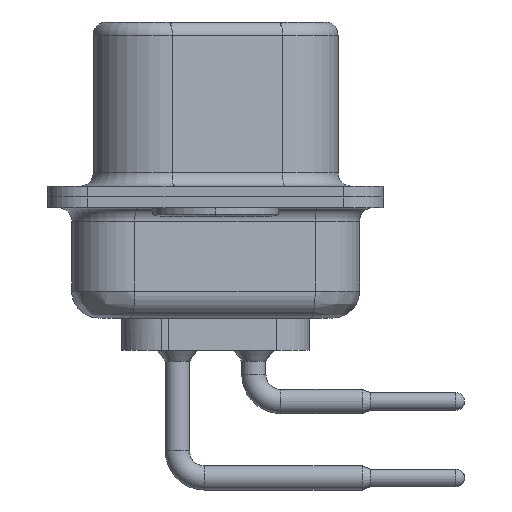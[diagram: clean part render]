
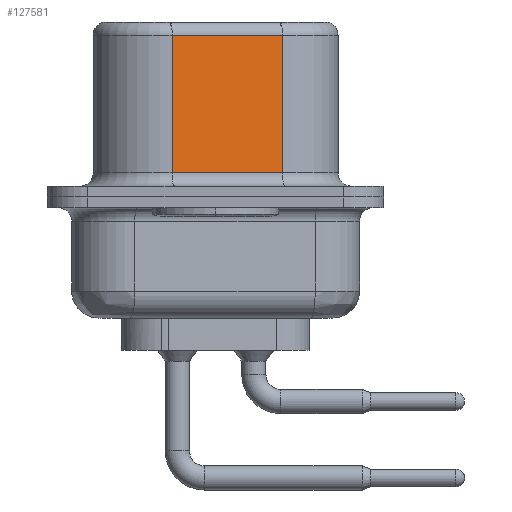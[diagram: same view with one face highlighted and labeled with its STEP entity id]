
A CAD part, left-side view. The second image highlights one B-rep face of the part: STEP entity #127581.
In plain terms, the highlighted planar face has unit normal (-0.985, -0.174, 0).
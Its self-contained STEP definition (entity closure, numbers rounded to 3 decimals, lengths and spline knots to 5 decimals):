
#5504 = CARTESIAN_POINT ( 'NONE',  ( -1.1048, 0.06362, 0.33504 ) ) ;
#12845 = VERTEX_POINT ( 'NONE', #84486 ) ;
#17356 = DIRECTION ( 'NONE',  ( -0.174, 0.985, 0. ) ) ;
#19855 = VERTEX_POINT ( 'NONE', #105521 ) ;
#21568 = CARTESIAN_POINT ( 'NONE',  ( -1.1048, 0.06362, 0.13386 ) ) ;
#24396 = VERTEX_POINT ( 'NONE', #98875 ) ;
#24650 = EDGE_CURVE ( 'NONE', #24396, #12845, #87204, .T. ) ;
#30681 = AXIS2_PLACEMENT_3D ( 'NONE', #138311, #70417, #17356 ) ;
#40199 = ORIENTED_EDGE ( 'NONE', *, *, #48391, .F. ) ;
#48391 = EDGE_CURVE ( 'NONE', #64205, #19855, #51664, .T. ) ;
#50054 = LINE ( 'NONE', #5504, #100008 ) ;
#50293 = DIRECTION ( 'NONE',  ( 0., 0., 1. ) ) ;
#51664 = LINE ( 'NONE', #125276, #86000 ) ;
#64205 = VERTEX_POINT ( 'NONE', #104562 ) ;
#70417 = DIRECTION ( 'NONE',  ( -0.985, -0.174, 0. ) ) ;
#71801 = FACE_OUTER_BOUND ( 'NONE', #133827, .T. ) ;
#82122 = ORIENTED_EDGE ( 'NONE', *, *, #24650, .T. ) ;
#84486 = CARTESIAN_POINT ( 'NONE',  ( -1.07634, -0.0978, 0.33504 ) ) ;
#86000 = VECTOR ( 'NONE', #50293, 39.37008 ) ;
#87204 = LINE ( 'NONE', #98528, #109723 ) ;
#93222 = DIRECTION ( 'NONE',  ( 0.174, -0.985, 0. ) ) ;
#95872 = DIRECTION ( 'NONE',  ( 0.174, -0.985, 0. ) ) ;
#98528 = CARTESIAN_POINT ( 'NONE',  ( -1.07634, -0.0978, 0.13386 ) ) ;
#98875 = CARTESIAN_POINT ( 'NONE',  ( -1.07634, -0.0978, 0.13386 ) ) ;
#100008 = VECTOR ( 'NONE', #93222, 39.37008 ) ;
#104562 = CARTESIAN_POINT ( 'NONE',  ( -1.1048, 0.06362, 0.13386 ) ) ;
#105521 = CARTESIAN_POINT ( 'NONE',  ( -1.1048, 0.06362, 0.33504 ) ) ;
#109146 = DIRECTION ( 'NONE',  ( 0., 0., 1. ) ) ;
#109249 = LINE ( 'NONE', #21568, #109429 ) ;
#109429 = VECTOR ( 'NONE', #95872, 39.37008 ) ;
#109723 = VECTOR ( 'NONE', #109146, 39.37008 ) ;
#114006 = EDGE_CURVE ( 'NONE', #64205, #24396, #109249, .T. ) ;
#114966 = PLANE ( 'NONE',  #30681 ) ;
#117662 = ORIENTED_EDGE ( 'NONE', *, *, #139381, .F. ) ;
#125276 = CARTESIAN_POINT ( 'NONE',  ( -1.1048, 0.06362, 0.13386 ) ) ;
#127581 = ADVANCED_FACE ( 'NONE', ( #71801 ), #114966, .T. ) ;
#133827 = EDGE_LOOP ( 'NONE', ( #40199, #136860, #82122, #117662 ) ) ;
#136860 = ORIENTED_EDGE ( 'NONE', *, *, #114006, .T. ) ;
#138311 = CARTESIAN_POINT ( 'NONE',  ( -1.1048, 0.06362, 0.09843 ) ) ;
#139381 = EDGE_CURVE ( 'NONE', #19855, #12845, #50054, .T. ) ;
